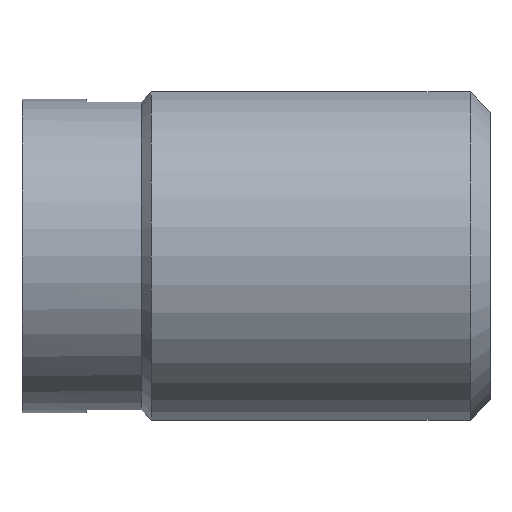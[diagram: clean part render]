
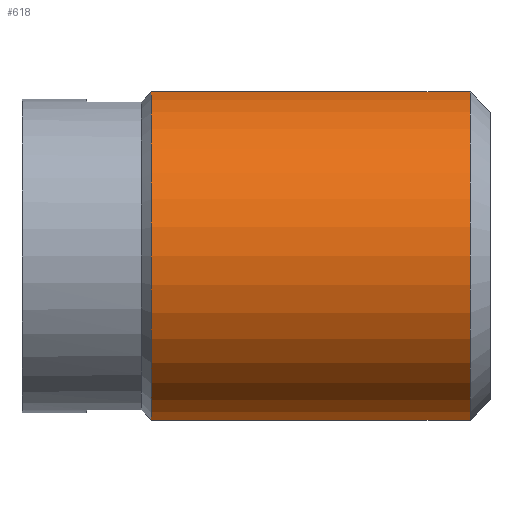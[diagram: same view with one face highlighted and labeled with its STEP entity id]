
A CAD part, front view. The second image highlights one B-rep face of the part: STEP entity #618.
In plain terms, the highlighted cylindrical face has radius 3.35 mm (diameter 6.7 mm), a partial arc.
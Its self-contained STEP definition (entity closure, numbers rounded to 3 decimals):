
#4 = CYLINDRICAL_SURFACE ( 'NONE', #39, 3.35 ) ;
#33 = DIRECTION ( 'NONE',  ( 0., 0., -1. ) ) ;
#39 = AXIS2_PLACEMENT_3D ( 'NONE', #131, #786, #200 ) ;
#103 = EDGE_CURVE ( 'NONE', #123, #143, #116, .T. ) ;
#113 = VERTEX_POINT ( 'NONE', #770 ) ;
#116 = CIRCLE ( 'NONE', #697, 3.35 ) ;
#123 = VERTEX_POINT ( 'NONE', #447 ) ;
#131 = CARTESIAN_POINT ( 'NONE',  ( 11.788, 0., 0. ) ) ;
#134 = ORIENTED_EDGE ( 'NONE', *, *, #103, .T. ) ;
#143 = VERTEX_POINT ( 'NONE', #512 ) ;
#197 = CIRCLE ( 'NONE', #559, 3.35 ) ;
#200 = DIRECTION ( 'NONE',  ( 0., 0., -1. ) ) ;
#248 = CARTESIAN_POINT ( 'NONE',  ( 11.788, -0.6, 3.296 ) ) ;
#249 = DIRECTION ( 'NONE',  ( -1., 0., 0. ) ) ;
#267 = VECTOR ( 'NONE', #450, 1000. ) ;
#282 = LINE ( 'NONE', #540, #641 ) ;
#317 = EDGE_CURVE ( 'NONE', #123, #113, #282, .T. ) ;
#335 = ORIENTED_EDGE ( 'NONE', *, *, #534, .F. ) ;
#360 = EDGE_CURVE ( 'NONE', #570, #113, #197, .T. ) ;
#399 = LINE ( 'NONE', #248, #267 ) ;
#419 = CARTESIAN_POINT ( 'NONE',  ( -6.8, 0., 0. ) ) ;
#426 = DIRECTION ( 'NONE',  ( -1., 0., 0. ) ) ;
#439 = EDGE_LOOP ( 'NONE', ( #480, #134, #335, #680 ) ) ;
#447 = CARTESIAN_POINT ( 'NONE',  ( -0.4, -0.6, -3.296 ) ) ;
#450 = DIRECTION ( 'NONE',  ( 1., 0., 0. ) ) ;
#480 = ORIENTED_EDGE ( 'NONE', *, *, #317, .F. ) ;
#504 = DIRECTION ( 'NONE',  ( 0., 0., -1. ) ) ;
#512 = CARTESIAN_POINT ( 'NONE',  ( -0.4, -0.6, 3.296 ) ) ;
#517 = CARTESIAN_POINT ( 'NONE',  ( -6.8, -0.6, 3.296 ) ) ;
#526 = FACE_OUTER_BOUND ( 'NONE', #439, .T. ) ;
#534 = EDGE_CURVE ( 'NONE', #570, #143, #399, .T. ) ;
#540 = CARTESIAN_POINT ( 'NONE',  ( 11.788, -0.6, -3.296 ) ) ;
#559 = AXIS2_PLACEMENT_3D ( 'NONE', #419, #676, #33 ) ;
#564 = CARTESIAN_POINT ( 'NONE',  ( -0.4, 0., 0. ) ) ;
#570 = VERTEX_POINT ( 'NONE', #517 ) ;
#618 = ADVANCED_FACE ( 'NONE', ( #526 ), #4, .T. ) ;
#641 = VECTOR ( 'NONE', #426, 1000. ) ;
#676 = DIRECTION ( 'NONE',  ( 1., 0., 0. ) ) ;
#680 = ORIENTED_EDGE ( 'NONE', *, *, #360, .T. ) ;
#697 = AXIS2_PLACEMENT_3D ( 'NONE', #564, #249, #504 ) ;
#770 = CARTESIAN_POINT ( 'NONE',  ( -6.8, -0.6, -3.296 ) ) ;
#786 = DIRECTION ( 'NONE',  ( 1., 0., 0. ) ) ;
